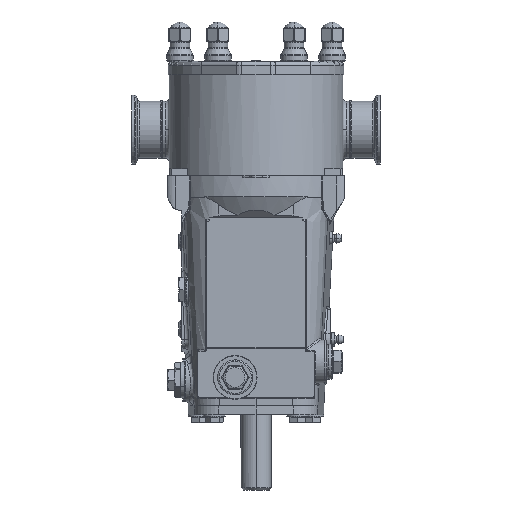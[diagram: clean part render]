
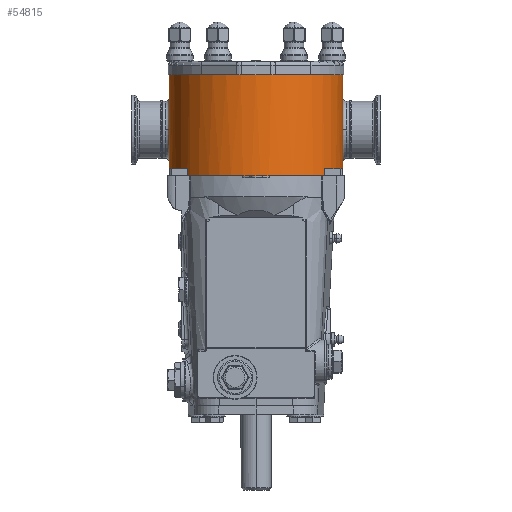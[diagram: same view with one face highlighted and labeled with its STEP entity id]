
A CAD part, front view. The second image highlights one B-rep face of the part: STEP entity #54815.
In plain terms, the highlighted cylindrical face has radius 62.992 mm (diameter 125.984 mm), a partial arc.
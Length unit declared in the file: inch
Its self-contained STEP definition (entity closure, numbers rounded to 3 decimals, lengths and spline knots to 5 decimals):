
#314 = DIRECTION ( 'NONE',  ( -1., 0., 0. ) ) ;
#489 = VERTEX_POINT ( 'NONE', #19977 ) ;
#2018 = EDGE_CURVE ( 'NONE', #34322, #42957, #53972, .T. ) ;
#2045 = AXIS2_PLACEMENT_3D ( 'NONE', #17548, #52671, #22576 ) ;
#2388 = AXIS2_PLACEMENT_3D ( 'NONE', #7490, #42613, #12542 ) ;
#3142 = LINE ( 'NONE', #14611, #53500 ) ;
#3174 = VERTEX_POINT ( 'NONE', #65465 ) ;
#3440 = ORIENTED_EDGE ( 'NONE', *, *, #2018, .F. ) ;
#4058 = CIRCLE ( 'NONE', #35118, 2.48 ) ;
#4093 = DIRECTION ( 'NONE',  ( 0., 0., 1. ) ) ;
#4424 = ORIENTED_EDGE ( 'NONE', *, *, #14652, .F. ) ;
#4470 = AXIS2_PLACEMENT_3D ( 'NONE', #60652, #30485, #314 ) ;
#4555 = AXIS2_PLACEMENT_3D ( 'NONE', #44540, #29528, #13051 ) ;
#5415 = ORIENTED_EDGE ( 'NONE', *, *, #26825, .T. ) ;
#6485 = DIRECTION ( 'NONE',  ( 0., 0., 1. ) ) ;
#7490 = CARTESIAN_POINT ( 'NONE',  ( 0., -2.563, -0.125 ) ) ;
#8140 = EDGE_CURVE ( 'NONE', #8609, #3174, #19123, .T. ) ;
#8456 = CARTESIAN_POINT ( 'NONE',  ( 0., -2.563, 2.76 ) ) ;
#8609 = VERTEX_POINT ( 'NONE', #64409 ) ;
#8996 = ORIENTED_EDGE ( 'NONE', *, *, #50627, .T. ) ;
#9020 = VECTOR ( 'NONE', #40353, 39.37008 ) ;
#9271 = CIRCLE ( 'NONE', #43185, 2.48 ) ;
#10117 = EDGE_CURVE ( 'NONE', #8609, #53186, #3142, .T. ) ;
#11701 = CARTESIAN_POINT ( 'NONE',  ( 0., -2.563, 0.075 ) ) ;
#12431 = CARTESIAN_POINT ( 'NONE',  ( 2.48, -2.563, -0.125 ) ) ;
#12542 = DIRECTION ( 'NONE',  ( 1., 0., 0. ) ) ;
#13051 = DIRECTION ( 'NONE',  ( 1., 0., 0. ) ) ;
#13146 = CARTESIAN_POINT ( 'NONE',  ( -2.48, -2.563, 2.76 ) ) ;
#13531 = DIRECTION ( 'NONE',  ( 0., 0., -1. ) ) ;
#14169 = VERTEX_POINT ( 'NONE', #62000 ) ;
#14221 = CARTESIAN_POINT ( 'NONE',  ( -1.875, -4.1862, -0.125 ) ) ;
#14611 = CARTESIAN_POINT ( 'NONE',  ( -1.95756, -4.08562, 2.76 ) ) ;
#14652 = EDGE_CURVE ( 'NONE', #56665, #15021, #47774, .T. ) ;
#15021 = VERTEX_POINT ( 'NONE', #29713 ) ;
#15086 = AXIS2_PLACEMENT_3D ( 'NONE', #8456, #13531, #48434 ) ;
#15319 = DIRECTION ( 'NONE',  ( 0., 0., -1. ) ) ;
#16169 = VECTOR ( 'NONE', #53988, 39.37008 ) ;
#16708 = EDGE_CURVE ( 'NONE', #28210, #39055, #24122, .T. ) ;
#16798 = DIRECTION ( 'NONE',  ( 1., 0., 0. ) ) ;
#17149 = VECTOR ( 'NONE', #6485, 39.37008 ) ;
#17195 = VERTEX_POINT ( 'NONE', #12431 ) ;
#17548 = CARTESIAN_POINT ( 'NONE',  ( 0., -2.563, -0.125 ) ) ;
#19123 = CIRCLE ( 'NONE', #4470, 2.48 ) ;
#19977 = CARTESIAN_POINT ( 'NONE',  ( -0.375, -5.01448, -0.125 ) ) ;
#20003 = VERTEX_POINT ( 'NONE', #14221 ) ;
#21510 = DIRECTION ( 'NONE',  ( 0., 0., 1. ) ) ;
#22442 = CYLINDRICAL_SURFACE ( 'NONE', #15086, 2.48 ) ;
#22576 = DIRECTION ( 'NONE',  ( 1., 0., 0. ) ) ;
#22699 = CARTESIAN_POINT ( 'NONE',  ( 1.95069, -4.09441, -0.125 ) ) ;
#22786 = ORIENTED_EDGE ( 'NONE', *, *, #42883, .T. ) ;
#22799 = CARTESIAN_POINT ( 'NONE',  ( 0., -2.563, -0.125 ) ) ;
#24122 = CIRCLE ( 'NONE', #2388, 2.48 ) ;
#24242 = CARTESIAN_POINT ( 'NONE',  ( 0., -2.563, -0.125 ) ) ;
#24456 = VECTOR ( 'NONE', #64758, 39.37008 ) ;
#24795 = ORIENTED_EDGE ( 'NONE', *, *, #60677, .F. ) ;
#25202 = AXIS2_PLACEMENT_3D ( 'NONE', #24242, #59446, #29302 ) ;
#26462 = ORIENTED_EDGE ( 'NONE', *, *, #52306, .T. ) ;
#26825 = EDGE_CURVE ( 'NONE', #489, #14169, #31572, .T. ) ;
#27456 = ORIENTED_EDGE ( 'NONE', *, *, #42793, .T. ) ;
#27848 = DIRECTION ( 'NONE',  ( 1., 0., 0. ) ) ;
#27959 = LINE ( 'NONE', #43610, #16169 ) ;
#28169 = DIRECTION ( 'NONE',  ( 0., 0., 1. ) ) ;
#28210 = VERTEX_POINT ( 'NONE', #48694 ) ;
#29302 = DIRECTION ( 'NONE',  ( 1., 0., 0. ) ) ;
#29473 = CARTESIAN_POINT ( 'NONE',  ( -2.48, -2.563, 2.76 ) ) ;
#29528 = DIRECTION ( 'NONE',  ( 0., 0., 1. ) ) ;
#29559 = AXIS2_PLACEMENT_3D ( 'NONE', #58326, #28169, #63450 ) ;
#29713 = CARTESIAN_POINT ( 'NONE',  ( 1.95069, -4.09441, 0.075 ) ) ;
#30477 = LINE ( 'NONE', #46656, #17149 ) ;
#30485 = DIRECTION ( 'NONE',  ( 0., 0., -1. ) ) ;
#30687 = VERTEX_POINT ( 'NONE', #52303 ) ;
#31567 = CARTESIAN_POINT ( 'NONE',  ( 2.45837, -2.88985, -0.125 ) ) ;
#31572 = CIRCLE ( 'NONE', #25202, 2.48 ) ;
#31953 = VERTEX_POINT ( 'NONE', #31567 ) ;
#32672 = AXIS2_PLACEMENT_3D ( 'NONE', #11701, #46853, #16798 ) ;
#32987 = EDGE_CURVE ( 'NONE', #20003, #489, #9271, .T. ) ;
#34257 = CARTESIAN_POINT ( 'NONE',  ( 0., -2.563, -0.125 ) ) ;
#34322 = VERTEX_POINT ( 'NONE', #13146 ) ;
#34603 = CARTESIAN_POINT ( 'NONE',  ( 2.45837, -2.88985, 0.075 ) ) ;
#35118 = AXIS2_PLACEMENT_3D ( 'NONE', #34257, #4093, #39249 ) ;
#35383 = CARTESIAN_POINT ( 'NONE',  ( -2.45837, -2.88985, 2.76 ) ) ;
#35766 = FACE_OUTER_BOUND ( 'NONE', #64133, .T. ) ;
#35767 = LINE ( 'NONE', #35383, #9020 ) ;
#36320 = VECTOR ( 'NONE', #15319, 39.37008 ) ;
#36431 = CIRCLE ( 'NONE', #29559, 2.48 ) ;
#36496 = ORIENTED_EDGE ( 'NONE', *, *, #37543, .T. ) ;
#36582 = CARTESIAN_POINT ( 'NONE',  ( -1.95756, -4.08562, -0.125 ) ) ;
#36900 = CARTESIAN_POINT ( 'NONE',  ( -2.45837, -2.88985, -0.125 ) ) ;
#37543 = EDGE_CURVE ( 'NONE', #53186, #20003, #36431, .T. ) ;
#37816 = LINE ( 'NONE', #29473, #24456 ) ;
#38827 = AXIS2_PLACEMENT_3D ( 'NONE', #22799, #57991, #27848 ) ;
#39055 = VERTEX_POINT ( 'NONE', #22699 ) ;
#39249 = DIRECTION ( 'NONE',  ( 1., 0., 0. ) ) ;
#40353 = DIRECTION ( 'NONE',  ( 0., 0., 1. ) ) ;
#42613 = DIRECTION ( 'NONE',  ( 0., 0., 1. ) ) ;
#42793 = EDGE_CURVE ( 'NONE', #30687, #45676, #4058, .T. ) ;
#42883 = EDGE_CURVE ( 'NONE', #56665, #31953, #61586, .T. ) ;
#42957 = VERTEX_POINT ( 'NONE', #60872 ) ;
#43162 = ORIENTED_EDGE ( 'NONE', *, *, #47566, .T. ) ;
#43185 = AXIS2_PLACEMENT_3D ( 'NONE', #51587, #21510, #56674 ) ;
#43610 = CARTESIAN_POINT ( 'NONE',  ( 2.48, -2.563, 2.76 ) ) ;
#44395 = ORIENTED_EDGE ( 'NONE', *, *, #16708, .T. ) ;
#44540 = CARTESIAN_POINT ( 'NONE',  ( 0., -2.563, 2.76 ) ) ;
#45676 = VERTEX_POINT ( 'NONE', #36900 ) ;
#46656 = CARTESIAN_POINT ( 'NONE',  ( 1.95069, -4.09441, 2.76 ) ) ;
#46853 = DIRECTION ( 'NONE',  ( 0., 0., -1. ) ) ;
#47566 = EDGE_CURVE ( 'NONE', #14169, #28210, #51593, .T. ) ;
#47774 = CIRCLE ( 'NONE', #32672, 2.48 ) ;
#48428 = EDGE_CURVE ( 'NONE', #45676, #3174, #35767, .T. ) ;
#48434 = DIRECTION ( 'NONE',  ( -1., 0., 0. ) ) ;
#48694 = CARTESIAN_POINT ( 'NONE',  ( 1.875, -4.1862, -0.125 ) ) ;
#50627 = EDGE_CURVE ( 'NONE', #31953, #17195, #63995, .T. ) ;
#51587 = CARTESIAN_POINT ( 'NONE',  ( 0., -2.563, -0.125 ) ) ;
#51593 = CIRCLE ( 'NONE', #2045, 2.48 ) ;
#52303 = CARTESIAN_POINT ( 'NONE',  ( -2.48, -2.563, -0.125 ) ) ;
#52306 = EDGE_CURVE ( 'NONE', #34322, #30687, #37816, .T. ) ;
#52671 = DIRECTION ( 'NONE',  ( 0., 0., 1. ) ) ;
#52991 = ORIENTED_EDGE ( 'NONE', *, *, #48428, .T. ) ;
#53186 = VERTEX_POINT ( 'NONE', #36582 ) ;
#53203 = EDGE_CURVE ( 'NONE', #39055, #15021, #30477, .T. ) ;
#53500 = VECTOR ( 'NONE', #59953, 39.37008 ) ;
#53838 = ORIENTED_EDGE ( 'NONE', *, *, #8140, .F. ) ;
#53972 = CIRCLE ( 'NONE', #4555, 2.48 ) ;
#53988 = DIRECTION ( 'NONE',  ( 0., 0., -1. ) ) ;
#54231 = ORIENTED_EDGE ( 'NONE', *, *, #10117, .T. ) ;
#54815 = ADVANCED_FACE ( 'NONE', ( #35766 ), #22442, .T. ) ;
#55556 = CARTESIAN_POINT ( 'NONE',  ( 2.45837, -2.88985, 2.76 ) ) ;
#56665 = VERTEX_POINT ( 'NONE', #34603 ) ;
#56674 = DIRECTION ( 'NONE',  ( 1., 0., 0. ) ) ;
#57991 = DIRECTION ( 'NONE',  ( 0., 0., 1. ) ) ;
#58326 = CARTESIAN_POINT ( 'NONE',  ( 0., -2.563, -0.125 ) ) ;
#59446 = DIRECTION ( 'NONE',  ( 0., 0., 1. ) ) ;
#59953 = DIRECTION ( 'NONE',  ( 0., 0., -1. ) ) ;
#60652 = CARTESIAN_POINT ( 'NONE',  ( 0., -2.563, 0.075 ) ) ;
#60677 = EDGE_CURVE ( 'NONE', #42957, #17195, #27959, .T. ) ;
#60872 = CARTESIAN_POINT ( 'NONE',  ( 2.48, -2.563, 2.76 ) ) ;
#61586 = LINE ( 'NONE', #55556, #36320 ) ;
#62000 = CARTESIAN_POINT ( 'NONE',  ( 0.375, -5.01448, -0.125 ) ) ;
#63145 = ORIENTED_EDGE ( 'NONE', *, *, #53203, .T. ) ;
#63450 = DIRECTION ( 'NONE',  ( 1., 0., 0. ) ) ;
#63995 = CIRCLE ( 'NONE', #38827, 2.48 ) ;
#64133 = EDGE_LOOP ( 'NONE', ( #53838, #54231, #36496, #64574, #5415, #43162, #44395, #63145, #4424, #22786, #8996, #24795, #3440, #26462, #27456, #52991 ) ) ;
#64409 = CARTESIAN_POINT ( 'NONE',  ( -1.95756, -4.08562, 0.075 ) ) ;
#64574 = ORIENTED_EDGE ( 'NONE', *, *, #32987, .T. ) ;
#64758 = DIRECTION ( 'NONE',  ( 0., 0., -1. ) ) ;
#65465 = CARTESIAN_POINT ( 'NONE',  ( -2.45837, -2.88985, 0.075 ) ) ;
